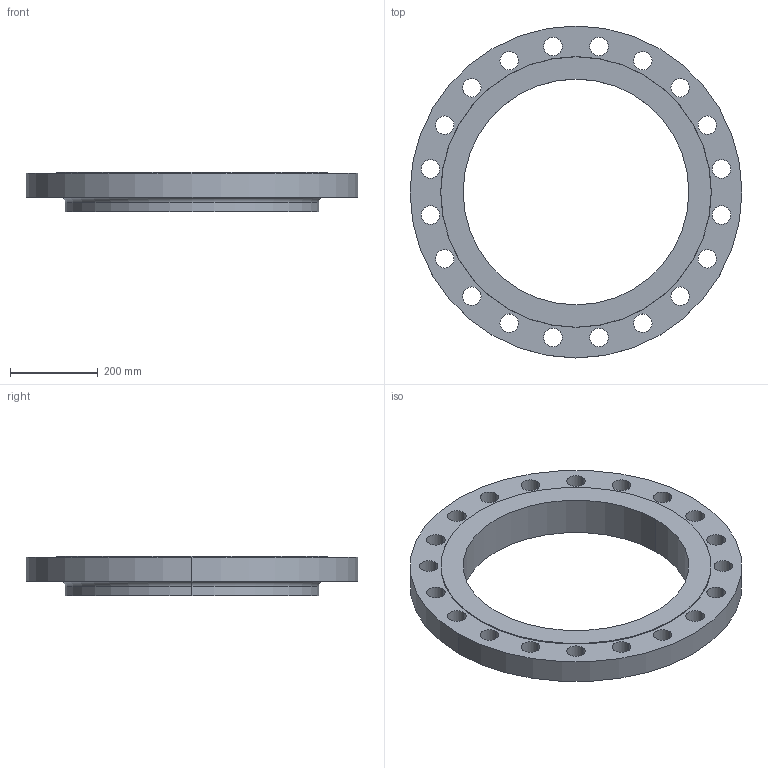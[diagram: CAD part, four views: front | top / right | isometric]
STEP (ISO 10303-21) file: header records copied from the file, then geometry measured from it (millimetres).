
FILE_DESCRIPTION (( 'STEP AP214' ), '1' );
FILE_NAME ('PN40 DN500 Type 12 - Type B Face.STEP', '2018-12-29T01:25:32', ( '' ), ( '' ), 'SwSTEP 2.0', 'SolidWorks 2019', '' );
FILE_SCHEMA (( 'AUTOMOTIVE_DESIGN' ));
Length unit declared in the file: millimetre
Products named in the file (1): PN40 DN500 Type 12 - Type B Face
Bounding box: 755 x 755 x 90 mm (x, y, z)
Volume: 13710979.1 mm3; surface area: 900273 mm2
Topology: 1 solids, 1 shells, 54 faces, 148 edges, 98 vertices
Faces by surface type: cylinder 46, plane 4, torus 2, cone 2
Entity records: 1894 total; most frequent: DIRECTION 358, CARTESIAN_POINT 301, ORIENTED_EDGE 296, AXIS2_PLACEMENT_3D 155, EDGE_CURVE 148, CIRCLE 100, VERTEX_POINT 98, EDGE_LOOP 98
